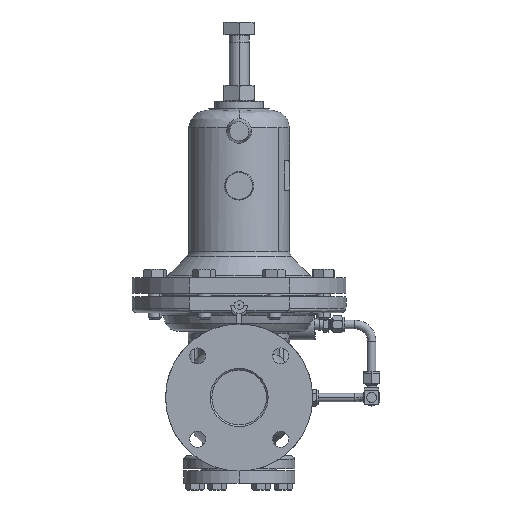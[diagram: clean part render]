
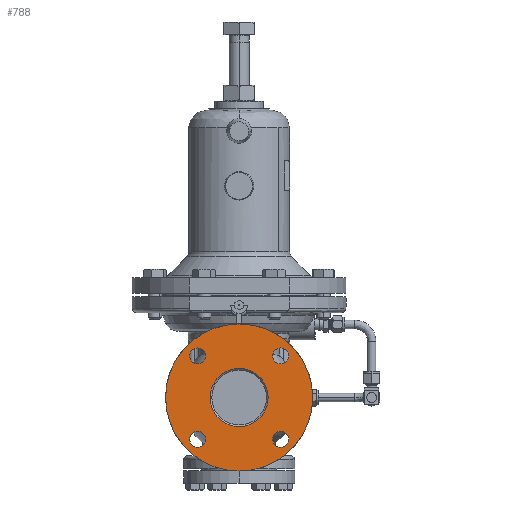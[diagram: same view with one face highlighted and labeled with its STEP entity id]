
A CAD part, left-side view. The second image highlights one B-rep face of the part: STEP entity #788.
In plain terms, the highlighted planar face has unit normal (-1, 0, 0).
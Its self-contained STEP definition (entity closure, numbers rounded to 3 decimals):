
#788=ADVANCED_FACE('',(#3521,#3522,#3523,#3524,#3525,#3526),#3520,.T.);
#3520=PLANE('',#11334);
#3521=FACE_OUTER_BOUND('',#11335,.T.);
#3522=FACE_BOUND('',#11336,.T.);
#3523=FACE_BOUND('',#11337,.T.);
#3524=FACE_BOUND('',#11338,.T.);
#3525=FACE_BOUND('',#11339,.T.);
#3526=FACE_BOUND('',#11340,.T.);
#11331=CARTESIAN_POINT('',(-135.,-161.554,-97.5));
#11332=DIRECTION('',(-1.,0.,0.));
#11333=DIRECTION('',(0.,0.,1.));
#11334=AXIS2_PLACEMENT_3D('',#11331,#11332,#11333);
#11335=EDGE_LOOP('',(#15757,#15758));
#11336=EDGE_LOOP('',(#15759,#15760));
#11337=EDGE_LOOP('',(#15761,#15762));
#11338=EDGE_LOOP('',(#15763,#15764));
#11339=EDGE_LOOP('',(#15765,#15766));
#11340=EDGE_LOOP('',(#15767,#15768));
#15757=ORIENTED_EDGE('',*,*,#18528,.T.);
#15758=ORIENTED_EDGE('',*,*,#18529,.T.);
#15759=ORIENTED_EDGE('',*,*,#18530,.F.);
#15760=ORIENTED_EDGE('',*,*,#18531,.F.);
#15761=ORIENTED_EDGE('',*,*,#18532,.F.);
#15762=ORIENTED_EDGE('',*,*,#18533,.F.);
#15763=ORIENTED_EDGE('',*,*,#18534,.F.);
#15764=ORIENTED_EDGE('',*,*,#18535,.F.);
#15765=ORIENTED_EDGE('',*,*,#18536,.F.);
#15766=ORIENTED_EDGE('',*,*,#18537,.F.);
#15767=ORIENTED_EDGE('',*,*,#18538,.F.);
#15768=ORIENTED_EDGE('',*,*,#18539,.F.);
#18528=EDGE_CURVE('',#24563,#24564,#24565,.T.);
#18529=EDGE_CURVE('',#24564,#24563,#24571,.T.);
#18530=EDGE_CURVE('',#24577,#24578,#24579,.T.);
#18531=EDGE_CURVE('',#24578,#24577,#24585,.T.);
#18532=EDGE_CURVE('',#24591,#24592,#24593,.T.);
#18533=EDGE_CURVE('',#24592,#24591,#24599,.T.);
#18534=EDGE_CURVE('',#24605,#24606,#24607,.T.);
#18535=EDGE_CURVE('',#24606,#24605,#24613,.T.);
#18536=EDGE_CURVE('',#24619,#24620,#24621,.T.);
#18537=EDGE_CURVE('',#24620,#24619,#24627,.T.);
#18538=EDGE_CURVE('',#24633,#24634,#24635,.T.);
#18539=EDGE_CURVE('',#24634,#24633,#24641,.T.);
#24563=VERTEX_POINT('',#36347);
#24564=VERTEX_POINT('',#36348);
#24565=CIRCLE('',#36352,87.5);
#24571=CIRCLE('',#36356,87.5);
#24577=VERTEX_POINT('',#36357);
#24578=VERTEX_POINT('',#36358);
#24579=CIRCLE('',#36362,9.5);
#24585=CIRCLE('',#36366,9.5);
#24591=VERTEX_POINT('',#36367);
#24592=VERTEX_POINT('',#36368);
#24593=CIRCLE('',#36372,9.5);
#24599=CIRCLE('',#36376,9.5);
#24605=VERTEX_POINT('',#36377);
#24606=VERTEX_POINT('',#36378);
#24607=CIRCLE('',#36382,9.5);
#24613=CIRCLE('',#36386,9.5);
#24619=VERTEX_POINT('',#36387);
#24620=VERTEX_POINT('',#36388);
#24621=CIRCLE('',#36392,9.5);
#24627=CIRCLE('',#36396,9.5);
#24633=VERTEX_POINT('',#36397);
#24634=VERTEX_POINT('',#36398);
#24635=CIRCLE('',#36402,34.5);
#24641=CIRCLE('',#36406,34.5);
#36347=CARTESIAN_POINT('',(-135.,0.,-87.5));
#36348=CARTESIAN_POINT('',(-135.,0.,87.5));
#36349=CARTESIAN_POINT('',(-135.,0.,0.));
#36350=DIRECTION('',(-1.,0.,0.));
#36351=DIRECTION('',(0.,0.,-1.));
#36352=AXIS2_PLACEMENT_3D('',#36349,#36350,#36351);
#36353=CARTESIAN_POINT('',(-135.,0.,0.));
#36354=DIRECTION('',(-1.,0.,0.));
#36355=DIRECTION('',(0.,0.,-1.));
#36356=AXIS2_PLACEMENT_3D('',#36353,#36354,#36355);
#36357=CARTESIAN_POINT('',(-135.,49.497,-39.997));
#36358=CARTESIAN_POINT('',(-135.,49.497,-58.997));
#36359=CARTESIAN_POINT('',(-135.,49.497,-49.497));
#36360=DIRECTION('',(-1.,0.,0.));
#36361=DIRECTION('',(0.,0.,-1.));
#36362=AXIS2_PLACEMENT_3D('',#36359,#36360,#36361);
#36363=CARTESIAN_POINT('',(-135.,49.497,-49.497));
#36364=DIRECTION('',(-1.,0.,0.));
#36365=DIRECTION('',(0.,0.,-1.));
#36366=AXIS2_PLACEMENT_3D('',#36363,#36364,#36365);
#36367=CARTESIAN_POINT('',(-135.,49.497,58.997));
#36368=CARTESIAN_POINT('',(-135.,49.497,39.997));
#36369=CARTESIAN_POINT('',(-135.,49.497,49.497));
#36370=DIRECTION('',(-1.,0.,0.));
#36371=DIRECTION('',(0.,0.,-1.));
#36372=AXIS2_PLACEMENT_3D('',#36369,#36370,#36371);
#36373=CARTESIAN_POINT('',(-135.,49.497,49.497));
#36374=DIRECTION('',(-1.,0.,0.));
#36375=DIRECTION('',(0.,0.,-1.));
#36376=AXIS2_PLACEMENT_3D('',#36373,#36374,#36375);
#36377=CARTESIAN_POINT('',(-135.,-49.498,-39.997));
#36378=CARTESIAN_POINT('',(-135.,-49.498,-58.997));
#36379=CARTESIAN_POINT('',(-135.,-49.498,-49.497));
#36380=DIRECTION('',(-1.,0.,0.));
#36381=DIRECTION('',(0.,0.,-1.));
#36382=AXIS2_PLACEMENT_3D('',#36379,#36380,#36381);
#36383=CARTESIAN_POINT('',(-135.,-49.498,-49.497));
#36384=DIRECTION('',(-1.,0.,0.));
#36385=DIRECTION('',(0.,0.,-1.));
#36386=AXIS2_PLACEMENT_3D('',#36383,#36384,#36385);
#36387=CARTESIAN_POINT('',(-135.,-49.498,58.997));
#36388=CARTESIAN_POINT('',(-135.,-49.498,39.997));
#36389=CARTESIAN_POINT('',(-135.,-49.498,49.497));
#36390=DIRECTION('',(-1.,0.,0.));
#36391=DIRECTION('',(0.,0.,-1.));
#36392=AXIS2_PLACEMENT_3D('',#36389,#36390,#36391);
#36393=CARTESIAN_POINT('',(-135.,-49.498,49.497));
#36394=DIRECTION('',(-1.,0.,0.));
#36395=DIRECTION('',(0.,0.,-1.));
#36396=AXIS2_PLACEMENT_3D('',#36393,#36394,#36395);
#36397=CARTESIAN_POINT('',(-135.,0.,-34.5));
#36398=CARTESIAN_POINT('',(-135.,0.,34.5));
#36399=CARTESIAN_POINT('',(-135.,0.,0.));
#36400=DIRECTION('',(-1.,0.,0.));
#36401=DIRECTION('',(0.,0.,1.));
#36402=AXIS2_PLACEMENT_3D('',#36399,#36400,#36401);
#36403=CARTESIAN_POINT('',(-135.,0.,0.));
#36404=DIRECTION('',(-1.,0.,0.));
#36405=DIRECTION('',(0.,0.,1.));
#36406=AXIS2_PLACEMENT_3D('',#36403,#36404,#36405);
